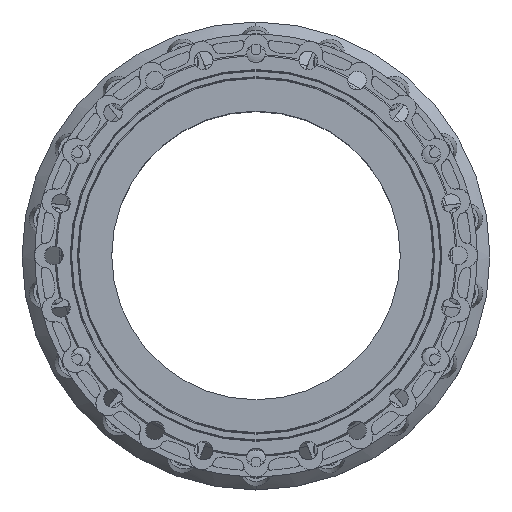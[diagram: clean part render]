
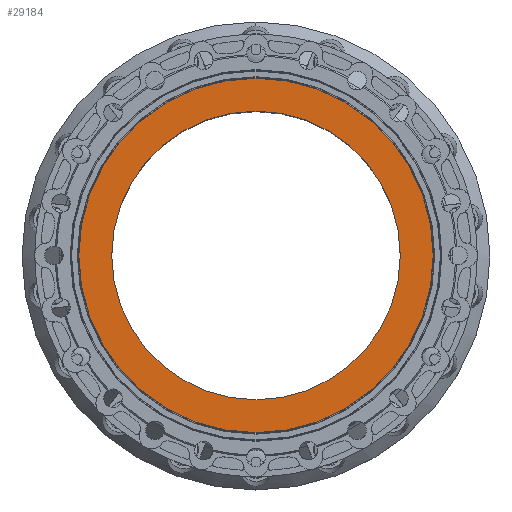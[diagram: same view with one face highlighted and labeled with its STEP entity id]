
A CAD part, top view. The second image highlights one B-rep face of the part: STEP entity #29184.
In plain terms, the highlighted planar face has unit normal (0, 0, 1).
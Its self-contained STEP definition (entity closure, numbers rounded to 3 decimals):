
#167 = DIRECTION ( 'NONE',  ( 0., 0., 1. ) ) ;
#346 = PLANE ( 'NONE',  #17775 ) ;
#930 = CARTESIAN_POINT ( 'NONE',  ( -368.499, 0., 348.5 ) ) ;
#2254 = AXIS2_PLACEMENT_3D ( 'NONE', #29206, #29400, #26035 ) ;
#2341 = ORIENTED_EDGE ( 'NONE', *, *, #18034, .F. ) ;
#2685 = CARTESIAN_POINT ( 'NONE',  ( -300., 0., 348.5 ) ) ;
#3349 = DIRECTION ( 'NONE',  ( -1., 0., 0. ) ) ;
#4119 = DIRECTION ( 'NONE',  ( 0., 0., 1. ) ) ;
#4183 = ORIENTED_EDGE ( 'NONE', *, *, #26008, .F. ) ;
#4555 = ORIENTED_EDGE ( 'NONE', *, *, #16098, .F. ) ;
#5646 = VERTEX_POINT ( 'NONE', #930 ) ;
#6396 = CIRCLE ( 'NONE', #32139, 300. ) ;
#6753 = AXIS2_PLACEMENT_3D ( 'NONE', #34478, #28670, #3349 ) ;
#7667 = CARTESIAN_POINT ( 'NONE',  ( 0., 0., 348.5 ) ) ;
#8681 = EDGE_LOOP ( 'NONE', ( #4183, #4555 ) ) ;
#8974 = FACE_OUTER_BOUND ( 'NONE', #18444, .T. ) ;
#10365 = CIRCLE ( 'NONE', #6753, 368.499 ) ;
#14823 = CIRCLE ( 'NONE', #2254, 368.499 ) ;
#15922 = DIRECTION ( 'NONE',  ( 1., 0., 0. ) ) ;
#16098 = EDGE_CURVE ( 'NONE', #34645, #28338, #6396, .T. ) ;
#17775 = AXIS2_PLACEMENT_3D ( 'NONE', #26723, #167, #28483 ) ;
#18034 = EDGE_CURVE ( 'Defeatured_0_433+Defeatured_0_448+Defeatured_0_448+Defeatured_0_448', #25233, #5646, #14823, .T. ) ;
#18444 = EDGE_LOOP ( 'NONE', ( #23879, #2341 ) ) ;
#20819 = CARTESIAN_POINT ( 'NONE',  ( 368.499, 0., 348.5 ) ) ;
#21567 = CARTESIAN_POINT ( 'NONE',  ( 0., 0., 348.5 ) ) ;
#22185 = EDGE_CURVE ( 'Defeatured_0_433+Defeatured_0_448+Defeatured_0_448+Defeatured_0_448', #5646, #25233, #10365, .T. ) ;
#23879 = ORIENTED_EDGE ( 'NONE', *, *, #22185, .F. ) ;
#25233 = VERTEX_POINT ( 'NONE', #20819 ) ;
#25463 = CIRCLE ( 'NONE', #27238, 300. ) ;
#26008 = EDGE_CURVE ( 'NONE', #28338, #34645, #25463, .T. ) ;
#26035 = DIRECTION ( 'NONE',  ( -1., 0., 0. ) ) ;
#26723 = CARTESIAN_POINT ( 'NONE',  ( 0., 350., 348.5 ) ) ;
#27238 = AXIS2_PLACEMENT_3D ( 'NONE', #7667, #31081, #27724 ) ;
#27724 = DIRECTION ( 'NONE',  ( 1., 0., 0. ) ) ;
#28338 = VERTEX_POINT ( 'NONE', #33865 ) ;
#28483 = DIRECTION ( 'NONE',  ( 1., 0., 0. ) ) ;
#28670 = DIRECTION ( 'NONE',  ( 0., 0., -1. ) ) ;
#29184 = ADVANCED_FACE ( 'Defeatured_0_448', ( #34290, #8974 ), #346, .T. ) ;
#29206 = CARTESIAN_POINT ( 'NONE',  ( 0., 0., 348.5 ) ) ;
#29400 = DIRECTION ( 'NONE',  ( 0., 0., -1. ) ) ;
#31081 = DIRECTION ( 'NONE',  ( 0., 0., 1. ) ) ;
#32139 = AXIS2_PLACEMENT_3D ( 'NONE', #21567, #4119, #15922 ) ;
#33865 = CARTESIAN_POINT ( 'NONE',  ( 300., 0., 348.5 ) ) ;
#34290 = FACE_BOUND ( 'NONE', #8681, .T. ) ;
#34478 = CARTESIAN_POINT ( 'NONE',  ( 0., 0., 348.5 ) ) ;
#34645 = VERTEX_POINT ( 'NONE', #2685 ) ;
